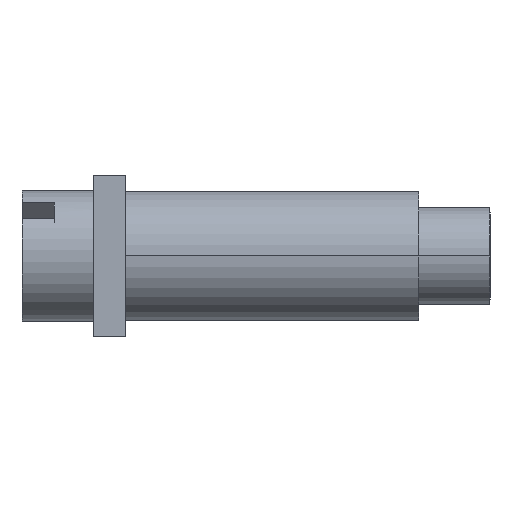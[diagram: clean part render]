
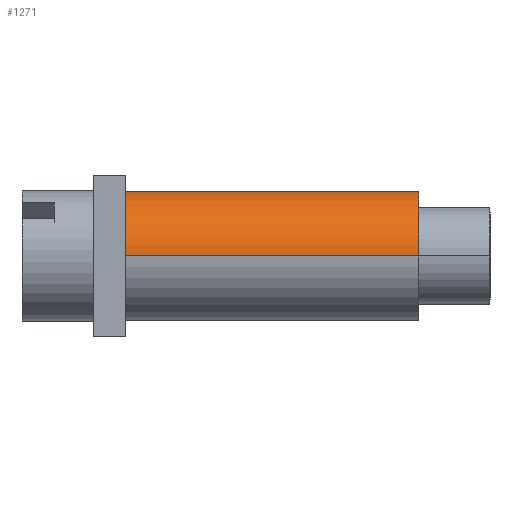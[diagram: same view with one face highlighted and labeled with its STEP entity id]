
A CAD part, left-side view. The second image highlights one B-rep face of the part: STEP entity #1271.
In plain terms, the highlighted cylindrical face has radius 2 mm (diameter 4 mm), a partial arc.
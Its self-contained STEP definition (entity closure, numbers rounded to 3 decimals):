
#1219=CARTESIAN_POINT('',(-2.,0.,0.));
#1220=VERTEX_POINT('',#1219);
#1221=CARTESIAN_POINT('',(2.,0.,0.));
#1222=VERTEX_POINT('',#1221);
#1223=CARTESIAN_POINT('',(0.,0.,0.));
#1224=DIRECTION('',(-1.,0.,0.));
#1225=DIRECTION('',(0.,1.,0.));
#1226=AXIS2_PLACEMENT_3D('',#1223,#1225,#1224);
#1227=CIRCLE('',#1226,2.);
#1228=EDGE_CURVE('',#1220,#1222,#1227,.T.);
#1240=CARTESIAN_POINT('',(0.,0.,0.));
#1241=DIRECTION('',(-1.,0.,0.));
#1242=DIRECTION('',(0.,-1.,0.));
#1243=AXIS2_PLACEMENT_3D('',#1240,#1242,#1241);
#1244=CYLINDRICAL_SURFACE('',#1243,2.);
#1245=CARTESIAN_POINT('',(-2.,-9.1,0.));
#1246=VERTEX_POINT('',#1245);
#1247=CARTESIAN_POINT('',(2.,-9.1,0.));
#1248=VERTEX_POINT('',#1247);
#1249=CARTESIAN_POINT('',(0.,-9.1,0.));
#1250=DIRECTION('',(-1.,0.,0.));
#1251=DIRECTION('',(0.,1.,0.));
#1252=AXIS2_PLACEMENT_3D('',#1249,#1251,#1250);
#1253=CIRCLE('',#1252,2.);
#1254=EDGE_CURVE('',#1246,#1248,#1253,.T.);
#1255=ORIENTED_EDGE('E157',*,*,#1254,.T.);
#1256=CARTESIAN_POINT('',(2.,-9.1,0.));
#1257=DIRECTION('',(0.,1.,0.));
#1258=VECTOR('',#1257,9.1);
#1259=LINE('',#1256,#1258);
#1260=EDGE_CURVE('',#1248,#1222,#1259,.T.);
#1261=ORIENTED_EDGE('E158',*,*,#1260,.T.);
#1262=ORIENTED_EDGE('E158',*,*,#1228,.F.);
#1263=CARTESIAN_POINT('',(-2.,0.,0.));
#1264=DIRECTION('',(0.,-1.,0.));
#1265=VECTOR('',#1264,9.1);
#1266=LINE('',#1263,#1265);
#1267=EDGE_CURVE('',#1220,#1246,#1266,.T.);
#1268=ORIENTED_EDGE('E159',*,*,#1267,.T.);
#1269=EDGE_LOOP('',(#1255,#1261,#1262,#1268));
#1270=FACE_OUTER_BOUND('',#1269,.T.);
#1271=ADVANCED_FACE('F19',(#1270),#1244,.T.);
